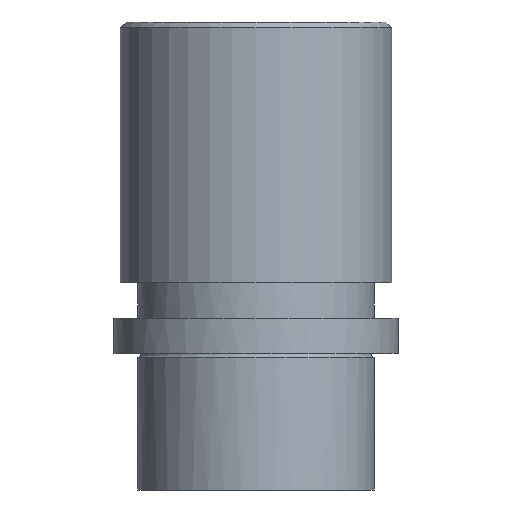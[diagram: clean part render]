
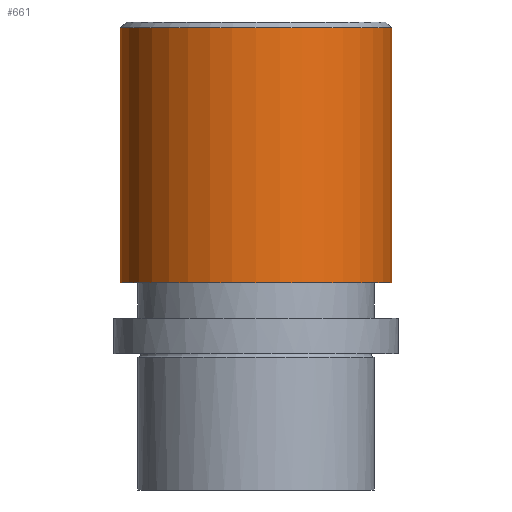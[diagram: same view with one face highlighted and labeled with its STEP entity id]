
A CAD part, front view. The second image highlights one B-rep face of the part: STEP entity #661.
In plain terms, the highlighted cylindrical face has radius 22.9 mm (diameter 45.8 mm), a partial arc.
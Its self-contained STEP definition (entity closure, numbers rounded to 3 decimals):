
#505=CARTESIAN_POINT('Vertex',(-22.9,0.,55.)) ;
#512=CARTESIAN_POINT('Vertex',(22.9,0.,55.)) ;
#532=CARTESIAN_POINT('Axis2P3D Location',(0.,0.,55.)) ;
#619=CARTESIAN_POINT('Line Origine',(-22.9,0.,56.)) ;
#623=CARTESIAN_POINT('Vertex',(-22.9,0.,12.)) ;
#626=CARTESIAN_POINT('Line Origine',(22.9,0.,56.)) ;
#630=CARTESIAN_POINT('Vertex',(22.9,0.,12.)) ;
#645=CARTESIAN_POINT('Axis2P3D Location',(0.,0.,56.)) ;
#650=CARTESIAN_POINT('Axis2P3D Location',(0.,0.,12.)) ;
#533=DIRECTION('Axis2P3D Direction',(0.,0.,-1.)) ;
#620=DIRECTION('Vector Direction',(0.,0.,-1.)) ;
#627=DIRECTION('Vector Direction',(0.,0.,-1.)) ;
#646=DIRECTION('Axis2P3D Direction',(0.,0.,-1.)) ;
#647=DIRECTION('Axis2P3D XDirection',(1.,0.,0.)) ;
#651=DIRECTION('Axis2P3D Direction',(0.,0.,-1.)) ;
#534=AXIS2_PLACEMENT_3D('Circle Axis2P3D',#532,#533,$) ;
#648=AXIS2_PLACEMENT_3D('Cylinder Axis2P3D',#645,#646,#647) ;
#652=AXIS2_PLACEMENT_3D('Circle Axis2P3D',#650,#651,$) ;
#656=ORIENTED_EDGE('',*,*,#632,.T.) ;
#657=ORIENTED_EDGE('',*,*,#536,.F.) ;
#658=ORIENTED_EDGE('',*,*,#625,.T.) ;
#659=ORIENTED_EDGE('',*,*,#654,.T.) ;
#621=VECTOR('Line Direction',#620,1.) ;
#628=VECTOR('Line Direction',#627,1.) ;
#661=ADVANCED_FACE('733-25',(#660),#649,.T.) ;
#535=CIRCLE('generated circle',#534,22.9) ;
#653=CIRCLE('generated circle',#652,22.9) ;
#649=CYLINDRICAL_SURFACE('generated cylinder',#648,22.9) ;
#536=EDGE_CURVE('',#506,#513,#535,.F.) ;
#625=EDGE_CURVE('',#506,#624,#622,.T.) ;
#632=EDGE_CURVE('',#631,#513,#629,.F.) ;
#654=EDGE_CURVE('',#624,#631,#653,.F.) ;
#655=EDGE_LOOP('',(#656,#657,#658,#659)) ;
#660=FACE_OUTER_BOUND('',#655,.T.) ;
#622=LINE('Line',#619,#621) ;
#629=LINE('Line',#626,#628) ;
#506=VERTEX_POINT('',#505) ;
#513=VERTEX_POINT('',#512) ;
#624=VERTEX_POINT('',#623) ;
#631=VERTEX_POINT('',#630) ;
